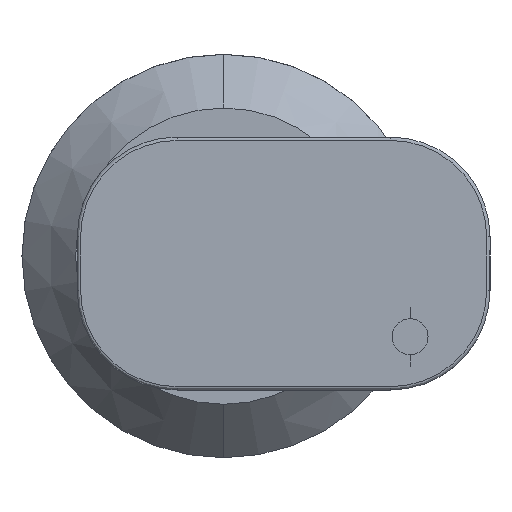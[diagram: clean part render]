
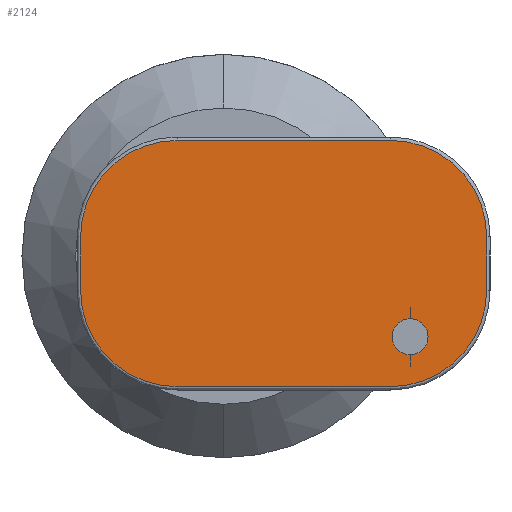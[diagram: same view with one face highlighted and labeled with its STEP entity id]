
A CAD part, front view. The second image highlights one B-rep face of the part: STEP entity #2124.
In plain terms, the highlighted planar face has unit normal (0, -1, 0).
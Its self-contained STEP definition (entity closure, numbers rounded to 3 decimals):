
#4 = ORIENTED_EDGE ( 'NONE', *, *, #3242, .T. ) ;
#59 = DIRECTION ( 'NONE',  ( 0., 0., -1. ) ) ;
#76 = CARTESIAN_POINT ( 'NONE',  ( -16., 0., 18.5 ) ) ;
#177 = AXIS2_PLACEMENT_3D ( 'NONE', #1986, #3309, #7939 ) ;
#245 = EDGE_CURVE ( 'NONE', #7169, #3575, #3278, .T. ) ;
#308 = VECTOR ( 'NONE', #4071, 1000. ) ;
#527 = CARTESIAN_POINT ( 'NONE',  ( 30.5, 0., 4. ) ) ;
#561 = EDGE_CURVE ( 'NONE', #568, #5653, #5553, .T. ) ;
#568 = VERTEX_POINT ( 'NONE', #8053 ) ;
#649 = EDGE_CURVE ( 'NONE', #968, #1018, #694, .T. ) ;
#694 = CIRCLE ( 'NONE', #177, 2.7 ) ;
#709 = EDGE_CURVE ( 'NONE', #4287, #5813, #6644, .T. ) ;
#731 = EDGE_LOOP ( 'NONE', ( #8561, #4301, #6788, #4, #1231, #8030, #2586, #1972 ) ) ;
#833 = CARTESIAN_POINT ( 'NONE',  ( -30.5, 0., -4. ) ) ;
#968 = VERTEX_POINT ( 'NONE', #6191 ) ;
#996 = VECTOR ( 'NONE', #59, 1000. ) ;
#1018 = VERTEX_POINT ( 'NONE', #1741 ) ;
#1082 = EDGE_LOOP ( 'NONE', ( #5200, #1176 ) ) ;
#1087 = VECTOR ( 'NONE', #6582, 1000. ) ;
#1117 = AXIS2_PLACEMENT_3D ( 'NONE', #6592, #7845, #3280 ) ;
#1176 = ORIENTED_EDGE ( 'NONE', *, *, #2400, .T. ) ;
#1231 = ORIENTED_EDGE ( 'NONE', *, *, #709, .T. ) ;
#1344 = CARTESIAN_POINT ( 'NONE',  ( 16., 0., 18.5 ) ) ;
#1449 = CARTESIAN_POINT ( 'NONE',  ( 16., 0., 18.5 ) ) ;
#1548 = CARTESIAN_POINT ( 'NONE',  ( 19., 0., -11. ) ) ;
#1585 = CIRCLE ( 'NONE', #6814, 14.5 ) ;
#1741 = CARTESIAN_POINT ( 'NONE',  ( 19., 0., -13.7 ) ) ;
#1972 = ORIENTED_EDGE ( 'NONE', *, *, #245, .T. ) ;
#1986 = CARTESIAN_POINT ( 'NONE',  ( 19., 0., -11. ) ) ;
#2124 = ADVANCED_FACE ( 'NONE', ( #8206, #4714 ), #6568, .F. ) ;
#2313 = CARTESIAN_POINT ( 'NONE',  ( 16., 0., -4. ) ) ;
#2400 = EDGE_CURVE ( 'NONE', #1018, #968, #3466, .T. ) ;
#2419 = DIRECTION ( 'NONE',  ( 0., -1., 0. ) ) ;
#2586 = ORIENTED_EDGE ( 'NONE', *, *, #3516, .T. ) ;
#2817 = CARTESIAN_POINT ( 'NONE',  ( -16., 0., -18.5 ) ) ;
#2952 = DIRECTION ( 'NONE',  ( 0., -1., 0. ) ) ;
#3093 = CARTESIAN_POINT ( 'NONE',  ( -16., 0., -4. ) ) ;
#3242 = EDGE_CURVE ( 'NONE', #5653, #4287, #5433, .T. ) ;
#3251 = EDGE_CURVE ( 'NONE', #6866, #568, #4718, .T. ) ;
#3278 = CIRCLE ( 'NONE', #4708, 14.5 ) ;
#3280 = DIRECTION ( 'NONE',  ( 0., 0., 1. ) ) ;
#3309 = DIRECTION ( 'NONE',  ( 0., 1., 0. ) ) ;
#3328 = AXIS2_PLACEMENT_3D ( 'NONE', #1548, #4919, #4843 ) ;
#3466 = CIRCLE ( 'NONE', #3328, 2.7 ) ;
#3516 = EDGE_CURVE ( 'NONE', #4117, #7169, #4298, .T. ) ;
#3575 = VERTEX_POINT ( 'NONE', #1344 ) ;
#3665 = CARTESIAN_POINT ( 'NONE',  ( -16., 0., 4. ) ) ;
#3759 = CARTESIAN_POINT ( 'NONE',  ( 16., 0., -18.5 ) ) ;
#4071 = DIRECTION ( 'NONE',  ( -1., 0., 0. ) ) ;
#4117 = VERTEX_POINT ( 'NONE', #7950 ) ;
#4122 = CARTESIAN_POINT ( 'NONE',  ( 16., 0., -18.5 ) ) ;
#4287 = VERTEX_POINT ( 'NONE', #2817 ) ;
#4298 = LINE ( 'NONE', #5378, #1087 ) ;
#4301 = ORIENTED_EDGE ( 'NONE', *, *, #3251, .T. ) ;
#4431 = DIRECTION ( 'NONE',  ( 0., 0., 1. ) ) ;
#4614 = DIRECTION ( 'NONE',  ( 0., -1., 0. ) ) ;
#4708 = AXIS2_PLACEMENT_3D ( 'NONE', #7866, #4614, #7898 ) ;
#4714 = FACE_BOUND ( 'NONE', #1082, .T. ) ;
#4718 = CIRCLE ( 'NONE', #6733, 14.5 ) ;
#4843 = DIRECTION ( 'NONE',  ( 0., 0., 1. ) ) ;
#4919 = DIRECTION ( 'NONE',  ( 0., 1., 0. ) ) ;
#5200 = ORIENTED_EDGE ( 'NONE', *, *, #649, .T. ) ;
#5378 = CARTESIAN_POINT ( 'NONE',  ( 30.5, 0., 4. ) ) ;
#5433 = CIRCLE ( 'NONE', #7649, 14.5 ) ;
#5553 = LINE ( 'NONE', #6679, #996 ) ;
#5653 = VERTEX_POINT ( 'NONE', #833 ) ;
#5664 = DIRECTION ( 'NONE',  ( 0., 0., 1. ) ) ;
#5673 = DIRECTION ( 'NONE',  ( 1., 0., 0. ) ) ;
#5813 = VERTEX_POINT ( 'NONE', #4122 ) ;
#5845 = VECTOR ( 'NONE', #5673, 1000. ) ;
#5884 = LINE ( 'NONE', #1449, #308 ) ;
#5900 = EDGE_CURVE ( 'NONE', #5813, #4117, #1585, .T. ) ;
#6191 = CARTESIAN_POINT ( 'NONE',  ( 19., 0., -8.3 ) ) ;
#6278 = DIRECTION ( 'NONE',  ( 0., 0., 1. ) ) ;
#6568 = PLANE ( 'NONE',  #1117 ) ;
#6582 = DIRECTION ( 'NONE',  ( 0., 0., 1. ) ) ;
#6592 = CARTESIAN_POINT ( 'NONE',  ( 16., 0., 4. ) ) ;
#6644 = LINE ( 'NONE', #3759, #5845 ) ;
#6679 = CARTESIAN_POINT ( 'NONE',  ( -30.5, 0., 4. ) ) ;
#6733 = AXIS2_PLACEMENT_3D ( 'NONE', #3665, #2419, #4431 ) ;
#6788 = ORIENTED_EDGE ( 'NONE', *, *, #561, .T. ) ;
#6814 = AXIS2_PLACEMENT_3D ( 'NONE', #2313, #2952, #6278 ) ;
#6866 = VERTEX_POINT ( 'NONE', #76 ) ;
#7169 = VERTEX_POINT ( 'NONE', #527 ) ;
#7649 = AXIS2_PLACEMENT_3D ( 'NONE', #3093, #7747, #5664 ) ;
#7747 = DIRECTION ( 'NONE',  ( 0., -1., 0. ) ) ;
#7845 = DIRECTION ( 'NONE',  ( 0., 1., 0. ) ) ;
#7866 = CARTESIAN_POINT ( 'NONE',  ( 16., 0., 4. ) ) ;
#7898 = DIRECTION ( 'NONE',  ( 0., 0., 1. ) ) ;
#7939 = DIRECTION ( 'NONE',  ( 0., 0., 1. ) ) ;
#7950 = CARTESIAN_POINT ( 'NONE',  ( 30.5, 0., -4. ) ) ;
#8005 = EDGE_CURVE ( 'NONE', #3575, #6866, #5884, .T. ) ;
#8030 = ORIENTED_EDGE ( 'NONE', *, *, #5900, .T. ) ;
#8053 = CARTESIAN_POINT ( 'NONE',  ( -30.5, 0., 4. ) ) ;
#8206 = FACE_OUTER_BOUND ( 'NONE', #731, .T. ) ;
#8561 = ORIENTED_EDGE ( 'NONE', *, *, #8005, .T. ) ;
